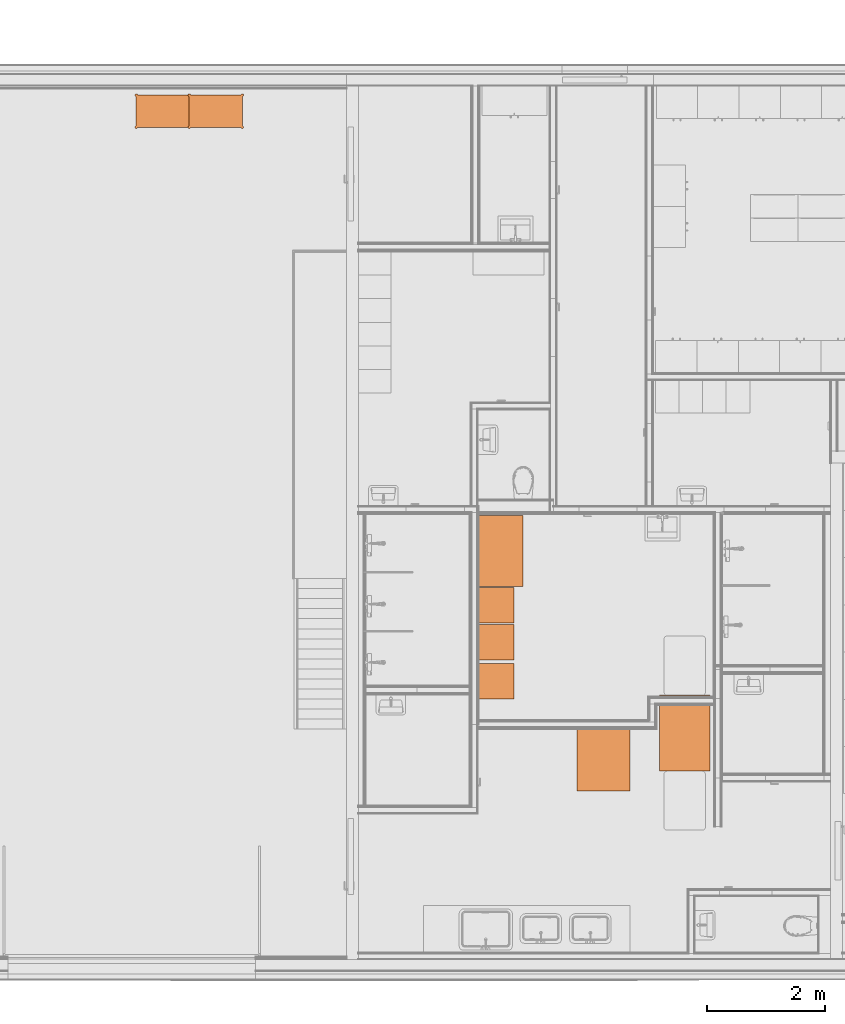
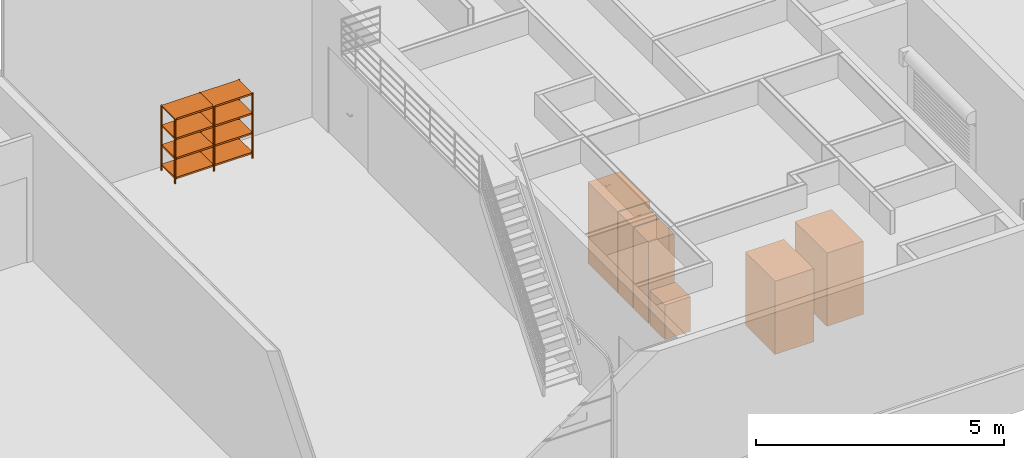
# One storey, part 36 of 67: 8 proxies.
"""IFC4 building model written with IfcOpenShell, lengths in millimetres."""

from ifc_helpers import new_model, entity, si_unit, converted_unit, direction, frame, origin, place, context, subcontext, project, spatial, line, arc, indexed_curve, outline, extrude, source, transform, mapped, material, constituent, constituent_set, type_object, type_shapes, element, save


model = new_model("IFC4")

# Units and contexts
model_context = context("Model", 3, precision=0.01, world=origin(), true_north=direction((0.0, 1.0)))
body_context = subcontext(model_context, "Body", "Model", "MODEL_VIEW")
ifc_project = project(units=[si_unit("LENGTHUNIT", "METRE", prefix="MILLI"), si_unit("AREAUNIT", "SQUARE_METRE"), si_unit("VOLUMEUNIT", "CUBIC_METRE"), converted_unit("PLANEANGLEUNIT", "DEGREE", entity("IfcPlaneAngleMeasure", 0.017453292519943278), si_unit("PLANEANGLEUNIT", "RADIAN"), dimensions=[0, 0, 0, 0, 0, 0, 0])], contexts=[model_context])

# Site, building, storey, space
site_placement = place(None, origin())
site = spatial("IfcSite", under=ifc_project, at=site_placement, Name="Tomtens navn", CompositionType="ELEMENT")
building_placement = place(site_placement, origin())
building = spatial("IfcBuilding", under=site, at=building_placement, Name="Byggets navn", CompositionType="ELEMENT")
storey_placement = place(building_placement, origin())
storey = spatial("IfcBuildingStorey", under=building, at=storey_placement, Name="Level 01", CompositionType="ELEMENT", Elevation=2.1993652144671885e-25)
space_1_placement = place(storey_placement, origin())
space_1 = spatial("IfcSpace", under=storey, at=space_1_placement, Name="111", CompositionType="ELEMENT", PredefinedType="NOTDEFINED")

# Proxy
ifc_material_1 = material(Name="<Unnamed>")
building_element_proxy_type_1 = type_object("IfcBuildingElementProxyType", Name="Washer:1290x850x1800 mm utstyr", PredefinedType="NOTDEFINED", material=ifc_material_1)
shared_shape_1 = source(origin(), body_context, "Body", "SweptSolid", [
    extrude(outline(indexed_curve([(-645.0000000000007, -424.9999999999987), (645.0000000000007, -424.9999999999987), (645.0000000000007, 424.9999999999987), (-645.0000000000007, 424.9999999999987), (-645.0000000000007, -424.9999999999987)], self_intersect=False)), frame((425.0, 645.0, 0.0), z_axis=(0.0, 0.0, 1.0), x_axis=(0.0, 1.0, 0.0)), (0.0, 0.0, 1.0), 1799.999999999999),
])
type_shapes(building_element_proxy_type_1, [shared_shape_1])
proxy_1_placement = place(space_1_placement, frame((63728.01088955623, 11247.466456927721, 0.0)))
element("IfcBuildingElementProxy", 1, at=proxy_1_placement, inside=space_1, type_object=building_element_proxy_type_1, material=ifc_material_1, Name="Washer:1290x850x1800 mm utstyr", PredefinedType="NOTDEFINED", context=body_context, shape_type="MappedRepresentation", body=[
    mapped(shared_shape_1, transform((0.0, 0.0, 0.0), scale=1.0)),
])

# Space
space_2_placement = place(storey_placement, origin())
space_2 = spatial("IfcSpace", under=storey, at=space_2_placement, Name="113", CompositionType="ELEMENT", PredefinedType="NOTDEFINED")

# Proxies
building_element_proxy_type_2 = type_object("IfcBuildingElementProxyType", Name="Washer:600x600x850 mm", PredefinedType="NOTDEFINED", material=ifc_material_1)
shared_shape_2 = source(origin(), body_context, "Body", "SweptSolid", [
    extrude(outline(indexed_curve([(-300.0000000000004, -299.999999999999), (300.00000000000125, -299.999999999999), (300.0000000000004, 299.99999999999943), (-300.00000000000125, 299.9999999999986), (-300.0000000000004, -299.999999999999)], self_intersect=False)), frame((300.0, 300.0, 0.0), z_axis=(0.0, 0.0, 1.0), x_axis=(0.0, 1.0, 0.0)), (0.0, 0.0, 1.0), 849.9999999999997),
])
type_shapes(building_element_proxy_type_2, [shared_shape_2])
proxy_2_placement = place(space_2_placement, frame((60662.85352810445, 13072.716456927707, 0.0), z_axis=(0.0, 0.0, 1.0), x_axis=(0.0, -1.0, 0.0)))
element("IfcBuildingElementProxy", 2, at=proxy_2_placement, inside=space_2, type_object=building_element_proxy_type_2, material=ifc_material_1, Name="Washer:600x600x850 mm", PredefinedType="NOTDEFINED", context=body_context, shape_type="MappedRepresentation", body=[
    mapped(shared_shape_2, transform((0.0, 0.0, 0.0), scale=1.0)),
])
building_element_proxy_type_3 = type_object("IfcBuildingElementProxyType", Name="Washer:1200x900x1800 mm klær", PredefinedType="NOTDEFINED", material=ifc_material_1)
shared_shape_3 = source(origin(), body_context, "Body", "SweptSolid", [
    extrude(outline(indexed_curve([(-600.0000000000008, -449.99999999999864), (600.0000000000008, -449.99999999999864), (600.0000000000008, 449.99999999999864), (-600.0000000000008, 449.99999999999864), (-600.0000000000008, -449.99999999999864)], self_intersect=False)), frame((450.0, 600.0, 0.0), z_axis=(0.0, 0.0, 1.0), x_axis=(0.0, 1.0, 0.0)), (0.0, 0.0, 1.0), 1799.999999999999),
])
type_shapes(building_element_proxy_type_3, [shared_shape_3])
proxy_3_placement = place(space_1_placement, frame((62328.01088955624, 10911.716456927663, 0.0)))
element("IfcBuildingElementProxy", 3, at=proxy_3_placement, inside=space_1, type_object=building_element_proxy_type_3, material=ifc_material_1, Name="Washer:1200x900x1800 mm klær", PredefinedType="NOTDEFINED", context=body_context, shape_type="MappedRepresentation", body=[
    mapped(shared_shape_3, transform((0.0, 0.0, 0.0), scale=1.0)),
])
ifc_constituent_1 = constituent(ifc_material_1, Name="<Unnamed>", fraction=0.0)
ifc_material_2 = material(Name="Black", Category="Unassigned")
ifc_constituent_2 = constituent(ifc_material_2, Name="Black", Category="Unassigned", fraction=1.0)
ifc_constituent_set_1 = constituent_set(constituents=[ifc_constituent_1, ifc_constituent_2])
ifc_constituent_3 = constituent(ifc_material_1, Name="<Unnamed>", fraction=0.0)
ifc_constituent_4 = constituent(ifc_material_2, Name="2D Symbol", Category="Unassigned", fraction=1.0)
ifc_constituent_set_2 = constituent_set(constituents=[ifc_constituent_3, ifc_constituent_4])
building_element_proxy_type_4 = type_object("IfcBuildingElementProxyType", Name="Dryer:750x1200x1850 mm", PredefinedType="NOTDEFINED", material=ifc_constituent_set_2)
shared_shape_4 = source(origin(), body_context, "Body", "SweptSolid", [
    extrude(outline(indexed_curve([(-375.0000000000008, -599.9999999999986), (375.0000000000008, -599.9999999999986), (375.0000000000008, 599.9999999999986), (-375.0000000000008, 599.9999999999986), (-375.0000000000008, -599.9999999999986)], self_intersect=False)), frame((600.0, 375.0, 0.0), z_axis=(0.0, 0.0, 1.0), x_axis=(0.0, 1.0, 0.0)), (0.0, 0.0, 1.0), 1999.999999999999),
    extrude(outline(indexed_curve([(-67.61242848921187, 9.716756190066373), (-67.61242848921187, -9.716756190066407), (16.59945849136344, -9.716756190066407), (16.59945849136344, -38.86702476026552), (34.41351150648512, -38.86702476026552), (34.41351150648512, 38.86702476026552), (16.59945849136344, 38.86702476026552), (16.59945849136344, 9.716756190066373), (-67.61242848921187, 9.716756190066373)], self_intersect=False)), frame((300.309866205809, 290.6394506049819, 2000.0), z_axis=(0.0, 0.0, -1.0), x_axis=(0.0, -1.0, 0.0)), (0.0, 0.0, -1.0), 2.0000000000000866),
])
type_shapes(building_element_proxy_type_4, [shared_shape_4])
proxy_4_placement = place(space_2_placement, frame((60662.85352810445, 15577.216456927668, 0.0), z_axis=(0.0, 0.0, 1.0), x_axis=(0.0, -1.0, 0.0)))
element("IfcBuildingElementProxy", 4, at=proxy_4_placement, inside=space_2, type_object=building_element_proxy_type_4, material=ifc_constituent_set_1, Name="Dryer:750x1200x1850 mm", PredefinedType="NOTDEFINED", context=body_context, shape_type="MappedRepresentation", body=[
    mapped(shared_shape_4, transform((0.0, 0.0, 0.0), scale=1.0)),
])
ifc_constituent_5 = constituent(ifc_material_1, Name="<Unnamed>", fraction=0.0)
ifc_constituent_6 = constituent(ifc_material_2, Name="Black", Category="Unassigned", fraction=1.0)
ifc_constituent_set_3 = constituent_set(constituents=[ifc_constituent_5, ifc_constituent_6])
ifc_constituent_7 = constituent(ifc_material_1, Name="<Unnamed>", fraction=0.0)
ifc_constituent_8 = constituent(ifc_material_2, Name="2D Symbol", Category="Unassigned", fraction=1.0)
ifc_constituent_set_4 = constituent_set(constituents=[ifc_constituent_7, ifc_constituent_8])
building_element_proxy_type_5 = type_object("IfcBuildingElementProxyType", Name="Dryer:Tørkeskap 600x6000x1850 mm", PredefinedType="NOTDEFINED", material=ifc_constituent_set_4)
shared_shape_5 = source(origin(), body_context, "Body", "SweptSolid", [
    extrude(outline(indexed_curve([(-300.0000000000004, -299.999999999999), (300.00000000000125, -299.999999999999), (300.0000000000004, 299.99999999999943), (-300.00000000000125, 299.9999999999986), (-300.0000000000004, -299.999999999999)], self_intersect=False)), frame((300.0, 300.0, 0.0), z_axis=(0.0, 0.0, 1.0), x_axis=(0.0, 1.0, 0.0)), (0.0, 0.0, 1.0), 1999.999999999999),
    extrude(outline(indexed_curve([(-67.61242848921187, 9.716756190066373), (-67.61242848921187, -9.716756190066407), (16.59945849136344, -9.716756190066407), (16.59945849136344, -38.86702476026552), (34.41351150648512, -38.86702476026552), (34.41351150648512, 38.86702476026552), (16.59945849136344, 38.86702476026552), (16.59945849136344, 9.716756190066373), (-67.61242848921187, 9.716756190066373)], self_intersect=False)), frame((300.309866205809, 290.6394506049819, 2000.0), z_axis=(0.0, 0.0, -1.0), x_axis=(0.0, -1.0, 0.0)), (0.0, 0.0, -1.0), 2.0000000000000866),
])
type_shapes(building_element_proxy_type_5, [shared_shape_5])
proxy_5_placement = place(space_2_placement, frame((60662.85352810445, 14357.21645692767, 0.0), z_axis=(0.0, 0.0, 1.0), x_axis=(0.0, -1.0, 0.0)))
element("IfcBuildingElementProxy", 5, at=proxy_5_placement, inside=space_2, type_object=building_element_proxy_type_5, material=ifc_constituent_set_3, Name="Dryer:Tørkeskap 600x6000x1850 mm", PredefinedType="NOTDEFINED", context=body_context, shape_type="MappedRepresentation", body=[
    mapped(shared_shape_5, transform((0.0, 0.0, 0.0), scale=1.0)),
])
ifc_constituent_9 = constituent(ifc_material_1, Name="<Unnamed>", fraction=0.0)
ifc_constituent_10 = constituent(ifc_material_2, Name="Black", Category="Unassigned", fraction=1.0)
ifc_constituent_set_5 = constituent_set(constituents=[ifc_constituent_9, ifc_constituent_10])
proxy_6_placement = place(space_2_placement, frame((60662.85352810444, 13732.466456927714, 0.0), z_axis=(0.0, 0.0, 1.0), x_axis=(0.0, -1.0, 0.0)))
element("IfcBuildingElementProxy", 6, at=proxy_6_placement, inside=space_2, type_object=building_element_proxy_type_5, material=ifc_constituent_set_5, Name="Dryer:Tørkeskap 600x6000x1850 mm", PredefinedType="NOTDEFINED", context=body_context, shape_type="MappedRepresentation", body=[
    mapped(shared_shape_5, transform((0.0, 0.0, 0.0), scale=1.0)),
])

# Space
space_3_placement = place(storey_placement, frame((51258.85352810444, 8107.46645692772, 0.0)))
space_3 = spatial("IfcSpace", under=storey, at=space_3_placement, Name="119", CompositionType="ELEMENT", PredefinedType="NOTDEFINED")

# Proxies
ifc_constituent_11 = constituent(ifc_material_1, Name="<Unnamed>", fraction=0.0)
ifc_material_3 = material(Name="Shelf Top", Category="Miscellaneous")
ifc_constituent_12 = constituent(ifc_material_3, Name="Shelf Top", Category="Miscellaneous", fraction=1.0)
ifc_constituent_set_6 = constituent_set(constituents=[ifc_constituent_11, ifc_constituent_12])
ifc_constituent_13 = constituent(ifc_material_1, Name="<Unnamed>", fraction=0.0)
ifc_constituent_14 = constituent(ifc_material_3, Name="Shelf Top", Category="Miscellaneous", fraction=1.0)
ifc_constituent_set_7 = constituent_set(constituents=[ifc_constituent_13, ifc_constituent_14])
building_element_proxy_type_6 = type_object("IfcBuildingElementProxyType", Name="Pantry_Shelving:W900 D545", PredefinedType="NOTDEFINED", material=ifc_constituent_set_7)
shared_shape_6 = source(origin(), body_context, "Body", "SweptSolid", [
    extrude(outline(indexed_curve([(-19.05, 3.383959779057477e-14), (-1.353583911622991e-13, -19.050000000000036), (19.05, -3.383959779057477e-14), (6.767919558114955e-14, 19.049999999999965)], segments=[arc(1, 2, 3), arc(3, 4, 1)], self_intersect=False)), frame((-450.0, 272.49999999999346, 0.0)), (0.0, 0.0, 1.0), 1599.9999999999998),
    extrude(outline(indexed_curve([(-19.05, 3.150664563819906e-14), (-1.3302543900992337e-13, -19.050000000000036), (19.05, -3.150664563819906e-14), (-2.3329521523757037e-15, 19.049999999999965)], segments=[arc(1, 2, 3), arc(3, 4, 1)], self_intersect=False)), frame((450.0, 272.5000000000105, 0.0), z_axis=(0.0, 0.0, 1.0), x_axis=(-1.0, 0.0, 0.0)), (0.0, 0.0, 1.0), 1599.9999999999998),
    extrude(outline(indexed_curve([(-19.05, 3.383959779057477e-14), (-1.353583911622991e-13, -19.050000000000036), (19.05, -3.383959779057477e-14), (6.767919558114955e-14, 19.049999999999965)], segments=[arc(1, 2, 3), arc(3, 4, 1)], self_intersect=False)), frame((-450.0, -272.5000000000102, 0.0)), (0.0, 0.0, 1.0), 1599.9999999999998),
    extrude(outline(indexed_curve([(-19.05, 7.380614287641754e-14), (-1.4148533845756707e-13, -19.05), (19.05, -1.076457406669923e-13), (1.4148533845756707e-13, 19.05)], segments=[arc(1, 2, 3), arc(3, 4, 1)], self_intersect=False)), frame((450.0, -272.50000000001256, 0.0), z_axis=(0.0, 0.0, 1.0), x_axis=(-1.0, 0.0, 0.0)), (0.0, 0.0, 1.0), 1599.9999999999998),
    extrude(outline(indexed_curve([(-250.33176893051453, -451.5874999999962), (250.33176893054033, -451.5874999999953), (257.35621517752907, -466.2670343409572), (272.5000000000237, -472.22499999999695), (294.710803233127, -450.7942573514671), (274.08750000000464, -427.8317689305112), (274.08749999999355, 427.83176893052), (294.71080323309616, 450.7942573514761), (272.4999999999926, 472.2250000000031), (257.3562151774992, 466.2670343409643), (250.3317689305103, 451.5875000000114), (-250.33176893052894, 451.58749999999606), (-257.35621517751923, 466.2670343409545), (-272.5000000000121, 472.22499999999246), (-294.71080323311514, 450.7942573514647), (-274.0875000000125, 427.8317689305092), (-274.0874999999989, -427.8317689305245), (-294.71080323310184, -450.7942573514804), (-272.4999999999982, -472.2250000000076), (-257.35621517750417, -466.2670343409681)], segments=[line(1, 2), arc(2, 3, 4), arc(4, 5, 6), line(6, 7), arc(7, 8, 9), arc(9, 10, 11), line(11, 12), arc(12, 13, 14), arc(14, 15, 16), line(16, 17), arc(17, 18, 19), arc(19, 20, 1)], self_intersect=False), holes=[indexed_curve([(-272.4999999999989, -430.9500000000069), (-253.44999999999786, -450.0000000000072), (-272.49999999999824, -469.0500000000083), (-291.5499999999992, -450.000000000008)], segments=[arc(1, 2, 3), arc(3, 4, 1)], self_intersect=False), indexed_curve([(-270.9125000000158, 427.83176893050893), (-256.7845517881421, 434.28455178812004), (-250.33176893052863, 448.41249999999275), (250.33176893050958, 448.4125000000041), (256.7845517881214, 434.2845517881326), (270.91249999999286, 427.83176893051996), (270.91250000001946, -427.831768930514), (256.7845517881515, -434.284551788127), (250.33176893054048, -448.41249999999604), (-250.33176893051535, -448.41250000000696), (-256.7845517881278, -434.2845517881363), (-270.91249999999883, -427.8317689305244)], segments=[arc(1, 2, 3), line(3, 4), arc(4, 5, 6), line(6, 7), arc(7, 8, 9), line(9, 10), arc(10, 11, 12), line(12, 1)], self_intersect=False), indexed_curve([(-272.5000000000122, 469.04999999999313), (-253.4500000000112, 449.99999999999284), (-272.50000000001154, 430.94999999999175), (-291.5500000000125, 449.99999999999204)], segments=[arc(1, 2, 3), arc(3, 4, 1)], self_intersect=False), indexed_curve([(272.50000000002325, -430.94999999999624), (291.5500000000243, -449.99999999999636), (272.5000000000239, -469.04999999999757), (253.45000000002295, -449.99999999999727)], segments=[arc(1, 2, 3), arc(3, 4, 1)], self_intersect=False), indexed_curve([(272.4999999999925, 469.0500000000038), (291.54999999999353, 450.0000000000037), (272.49999999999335, 430.9500000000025), (253.4499999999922, 450.0000000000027)], segments=[arc(1, 2, 3), arc(3, 4, 1)], self_intersect=False)]), frame((0.0, 0.0, 108.7249999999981), z_axis=(0.0, 0.0, 1.0), x_axis=(0.0, -1.0, 0.0)), (0.0, 0.0, 1.0), 41.27499999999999),
    extrude(outline(indexed_curve([(-250.3317689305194, -451.5874999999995), (250.3317689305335, -451.58749999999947), (257.3562151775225, -466.2670343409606), (272.5000000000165, -472.2250000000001), (294.7108032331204, -450.79425735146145), (274.0874999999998, -427.8317689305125), (274.08749999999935, 427.8317689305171), (294.7108032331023, 450.7942573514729), (272.49999999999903, 472.22500000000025), (257.35621517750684, 466.2670343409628), (250.33176893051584, 451.5875000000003), (-250.33176893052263, 451.5874999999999), (-257.35621517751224, 466.2670343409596), (-272.5000000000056, 472.2249999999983), (-294.71080323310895, 450.79425735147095), (-274.0875000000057, 427.83176893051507), (-274.08750000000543, -427.8317689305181), (-294.7108032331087, -450.7942573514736), (-272.50000000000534, -472.2250000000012), (-257.3562151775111, -466.2670343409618)], segments=[line(1, 2), arc(2, 3, 4), arc(4, 5, 6), line(6, 7), arc(7, 8, 9), arc(9, 10, 11), line(11, 12), arc(12, 13, 14), arc(14, 15, 16), line(16, 17), arc(17, 18, 19), arc(19, 20, 1)], self_intersect=False), holes=[indexed_curve([(-272.5000000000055, -430.95000000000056), (-253.45000000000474, -450.00000000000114), (-272.5000000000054, -469.05000000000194), (-291.5500000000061, -450.0000000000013)], segments=[arc(1, 2, 3), arc(3, 4, 1)], self_intersect=False), indexed_curve([(-270.91250000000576, 427.83176893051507), (-256.7845517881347, 434.28455178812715), (-250.33176893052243, 448.4124999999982), (250.33176893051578, 448.41250000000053), (256.7845517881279, 434.2845517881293), (270.9124999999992, 427.83176893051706), (270.91249999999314, -427.83176893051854), (256.78455178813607, -434.2845517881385), (250.33176893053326, -448.41250000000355), (-250.33176893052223, -448.4125000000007), (-256.78455178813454, -434.28455178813), (-270.9125000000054, -427.8317689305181)], segments=[arc(1, 2, 3), line(3, 4), arc(4, 5, 6), line(6, 7), arc(7, 8, 9), line(9, 10), arc(10, 11, 12), line(12, 1)], self_intersect=False), indexed_curve([(-272.50000000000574, 469.04999999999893), (-253.450000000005, 449.9999999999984), (-272.5000000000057, 430.9499999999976), (-291.5500000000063, 449.9999999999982)], segments=[arc(1, 2, 3), arc(3, 4, 1)], self_intersect=False), indexed_curve([(272.5000000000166, -430.94999999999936), (291.55000000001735, -449.99999999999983), (272.5000000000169, -469.0500000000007), (253.45000000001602, -450.0000000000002)], segments=[arc(1, 2, 3), arc(3, 4, 1)], self_intersect=False), indexed_curve([(272.4999999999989, 469.050000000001), (291.54999999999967, 450.00000000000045), (272.499999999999, 430.94999999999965), (253.4499999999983, 450.0000000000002)], segments=[arc(1, 2, 3), arc(3, 4, 1)], self_intersect=False)]), frame((0.0, 0.0, 592.0583333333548), z_axis=(0.0, 0.0, 1.0), x_axis=(0.0, -1.0, 0.0)), (0.0, 0.0, 1.0), 41.27500000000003),
    extrude(outline(indexed_curve([(-250.33176893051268, -451.58749999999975), (250.3317689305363, -451.58749999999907), (257.35621517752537, -466.2670343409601), (272.5000000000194, -472.22499999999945), (294.7108032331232, -450.79425735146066), (274.08750000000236, -427.83176893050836), (274.08749999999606, 427.83176893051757), (294.7108032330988, 450.79425735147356), (272.49999999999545, 472.2250000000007), (257.3562151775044, 466.2670343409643), (250.33176893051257, 451.58750000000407), (-250.33176893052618, 451.58749999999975), (-257.35621517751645, 466.2670343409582), (-272.5000000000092, 472.2249999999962), (-294.7108032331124, 450.7942573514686), (-274.087500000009, 427.83176893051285), (-274.0875000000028, -427.8317689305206), (-294.71080323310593, -450.79425735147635), (-272.5000000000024, -472.2250000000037), (-257.35621517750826, -466.2670343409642)], segments=[line(1, 2), arc(2, 3, 4), arc(4, 5, 6), line(6, 7), arc(7, 8, 9), arc(9, 10, 11), line(11, 12), arc(12, 13, 14), arc(14, 15, 16), line(16, 17), arc(17, 18, 19), arc(19, 20, 1)], self_intersect=False), holes=[indexed_curve([(-272.50000000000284, -430.95000000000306), (-253.45000000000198, -450.00000000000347), (-272.5000000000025, -469.05000000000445), (-291.5500000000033, -450.000000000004)], segments=[arc(1, 2, 3), arc(3, 4, 1)], self_intersect=False), indexed_curve([(-270.91250000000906, 427.8317689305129), (-256.784551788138, 434.28455178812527), (-250.3317689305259, 448.4124999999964), (250.33176893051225, 448.412500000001), (256.7845517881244, 434.28455178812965), (270.9124999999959, 427.8317689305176), (270.9124999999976, -427.8317689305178), (256.7845517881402, -434.28455178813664), (250.33176893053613, -448.4125000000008), (-250.33176893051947, -448.4125000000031), (-256.78455178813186, -434.2845517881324), (-270.9125000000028, -427.8317689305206)], segments=[arc(1, 2, 3), line(3, 4), arc(4, 5, 6), line(6, 7), arc(7, 8, 9), line(9, 10), arc(10, 11, 12), line(12, 1)], self_intersect=False), indexed_curve([(-272.5000000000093, 469.0499999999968), (-253.45000000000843, 449.9999999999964), (-272.500000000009, 430.9499999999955), (-291.5500000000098, 449.99999999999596)], segments=[arc(1, 2, 3), arc(3, 4, 1)], self_intersect=False), indexed_curve([(272.5000000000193, -430.94999999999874), (291.5500000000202, -449.9999999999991), (272.5000000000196, -469.0500000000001), (253.45000000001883, -449.9999999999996)], segments=[arc(1, 2, 3), arc(3, 4, 1)], self_intersect=False), indexed_curve([(272.4999999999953, 469.05000000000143), (291.54999999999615, 450.00000000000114), (272.4999999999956, 430.9500000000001), (253.4499999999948, 450.00000000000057)], segments=[arc(1, 2, 3), arc(3, 4, 1)], self_intersect=False)]), frame((0.0, 0.0, 1075.3916666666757), z_axis=(0.0, 0.0, 1.0), x_axis=(0.0, -1.0, 0.0)), (0.0, 0.0, 1.0), 41.274999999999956),
    extrude(outline(indexed_curve([(-250.3317689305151, -451.5874999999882), (250.3317689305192, -451.58749999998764), (257.3562151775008, -466.2670343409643), (272.50000000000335, -472.2250000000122), (294.71080323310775, -450.7942573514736), (274.08749999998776, -427.83176893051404), (274.08750000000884, 427.83176893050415), (294.7108032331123, 450.7942573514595), (272.5000000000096, 472.22499999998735), (257.35621517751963, 466.26703434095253), (250.33176893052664, 451.58749999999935), (-250.33176893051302, 451.587500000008), (-257.3562151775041, 466.26703434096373), (-272.49999999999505, 472.22500000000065), (-294.7108032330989, 450.7942573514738), (-274.0874999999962, 427.83176893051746), (-274.0875000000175, -427.831768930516), (-294.71080323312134, -450.79425735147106), (-272.50000000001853, -472.2249999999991), (-257.3562151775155, -466.2670343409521)], segments=[line(1, 2), arc(2, 3, 4), arc(4, 5, 6), line(6, 7), arc(7, 8, 9), arc(9, 10, 11), line(11, 12), arc(12, 13, 14), arc(14, 15, 16), line(16, 17), arc(17, 18, 19), arc(19, 20, 1)], self_intersect=False), holes=[indexed_curve([(-272.5000000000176, -430.94999999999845), (-253.45000000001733, -449.9999999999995), (-272.5000000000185, -469.04999999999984), (-291.5500000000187, -449.9999999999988)], segments=[arc(1, 2, 3), arc(3, 4, 1)], self_intersect=False), indexed_curve([(-270.9124999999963, 427.8317689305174), (-256.784551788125, 434.2845517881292), (-250.33176893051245, 448.4125000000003), (250.3317689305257, 448.4124999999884), (256.7845517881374, 434.28455178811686), (270.9125000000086, 427.83176893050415), (270.912499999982, -427.83176893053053), (256.7845517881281, -434.2845517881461), (250.33176893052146, -448.4125000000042), (-250.3317689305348, -448.41249999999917), (-256.78455178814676, -434.28455178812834), (-270.9125000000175, -427.83176893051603)], segments=[arc(1, 2, 3), line(3, 4), arc(4, 5, 6), line(6, 7), arc(7, 8, 9), line(9, 10), arc(10, 11, 12), line(12, 1)], self_intersect=False), indexed_curve([(-272.4999999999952, 469.0500000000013), (-253.44999999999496, 450.0000000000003), (-272.49999999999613, 430.95), (-291.5499999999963, 450.00000000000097)], segments=[arc(1, 2, 3), arc(3, 4, 1)], self_intersect=False), indexed_curve([(272.5000000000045, -430.95000000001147), (291.5500000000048, -450.00000000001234), (272.5000000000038, -469.0500000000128), (253.45000000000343, -450.0000000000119)], segments=[arc(1, 2, 3), arc(3, 4, 1)], self_intersect=False), indexed_curve([(272.50000000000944, 469.0499999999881), (291.5500000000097, 449.9999999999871), (272.50000000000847, 430.9499999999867), (253.4500000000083, 449.99999999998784)], segments=[arc(1, 2, 3), arc(3, 4, 1)], self_intersect=False)]), frame((0.0, 0.0, 1558.7249999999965), z_axis=(0.0, 0.0, 1.0), x_axis=(0.0, -1.0, 0.0)), (0.0, 0.0, 1.0), 41.27500000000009),
    extrude(outline(indexed_curve([(427.8317689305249, 270.91250000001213), (-427.83176893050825, 270.91250000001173), (-434.2845517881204, 256.78455178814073), (-448.4124999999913, 250.33176893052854), (-448.41250000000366, -250.33176893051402), (-434.2845517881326, -256.78455178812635), (-427.83176893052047, -270.9124999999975), (427.8317689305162, -270.91250000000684), (434.28455178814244, -256.7845517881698), (448.4124999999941, -250.3317689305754), (448.41250000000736, 250.331768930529), (434.2845517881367, 256.7845517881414)], segments=[line(1, 2), arc(2, 3, 4), line(4, 5), arc(5, 6, 7), line(7, 8), arc(8, 9, 10), line(10, 11), arc(11, 12, 1)], self_intersect=False)), frame((0.0, 0.0, 137.29999999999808), z_axis=(0.0, 0.0, -1.0), x_axis=(-1.0, 0.0, 0.0)), (0.0, 0.0, -1.0), 12.700000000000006),
    extrude(outline(indexed_curve([(427.8317689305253, 270.9125000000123), (-427.83176893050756, 270.9125000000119), (-434.2845517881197, 256.7845517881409), (-448.41249999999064, 250.3317689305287), (-448.412500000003, -250.33176893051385), (-434.2845517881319, -256.7845517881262), (-427.83176893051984, -270.91249999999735), (427.83176893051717, -270.9125000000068), (434.28455178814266, -256.7845517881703), (448.4124999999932, -250.33176893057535), (448.41250000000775, 250.33176893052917), (434.2845517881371, 256.7845517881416)], segments=[line(1, 2), arc(2, 3, 4), line(4, 5), arc(5, 6, 7), line(7, 8), arc(8, 9, 10), line(10, 11), arc(11, 12, 1)], self_intersect=False)), frame((0.0, 0.0, 620.6333333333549), z_axis=(0.0, 0.0, -1.0), x_axis=(-1.0, 0.0, 0.0)), (0.0, 0.0, -1.0), 12.699999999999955),
    extrude(outline(indexed_curve([(427.83176893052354, 270.9125000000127), (-427.83176893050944, 270.9125000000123), (-434.28455178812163, 256.78455178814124), (-448.4124999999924, 250.33176893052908), (-448.41249999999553, -250.33176893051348), (-434.28455178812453, -256.7845517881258), (-427.8317689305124, -270.9124999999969), (427.83176893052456, -270.91250000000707), (434.2845517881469, -256.7845517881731), (448.4124999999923, -250.33176893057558), (448.412500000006, 250.3317689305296), (434.28455178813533, 256.784551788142)], segments=[line(1, 2), arc(2, 3, 4), line(4, 5), arc(5, 6, 7), line(7, 8), arc(8, 9, 10), line(10, 11), arc(11, 12, 1)], self_intersect=False)), frame((0.0, 0.0, 1103.9666666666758), z_axis=(0.0, 0.0, -1.0), x_axis=(-1.0, 0.0, 0.0)), (0.0, 0.0, -1.0), 12.699999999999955),
    extrude(outline(indexed_curve([(427.8317689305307, 270.9125000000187), (-427.83176893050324, 270.9125000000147), (-434.2845517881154, 256.7845517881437), (-448.4124999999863, 250.33176893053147), (-448.41249999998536, -250.33176893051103), (-434.2845517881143, -256.78455178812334), (-427.8317689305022, -270.9124999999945), (427.8317689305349, -270.9125000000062), (434.2845517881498, -256.7845517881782), (448.4124999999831, -250.33176893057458), (448.4124999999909, 250.33176893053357), (434.2845517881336, 256.78455178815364)], segments=[line(1, 2), arc(2, 3, 4), line(4, 5), arc(5, 6, 7), line(7, 8), arc(8, 9, 10), line(10, 11), arc(11, 12, 1)], self_intersect=False)), frame((0.0, 0.0, 1587.2999999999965), z_axis=(0.0, 0.0, -1.0), x_axis=(-1.0, 0.0, 0.0)), (0.0, 0.0, -1.0), 12.70000000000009),
])
type_shapes(building_element_proxy_type_6, [shared_shape_6])
proxy_7_placement = place(space_3_placement, frame((4050.0569160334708, 14325.898993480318, 0.0)))
element("IfcBuildingElementProxy", 7, at=proxy_7_placement, inside=space_3, type_object=building_element_proxy_type_6, material=ifc_constituent_set_6, Name="Pantry_Shelving:W900 D545", PredefinedType="NOTDEFINED", context=body_context, shape_type="MappedRepresentation", body=[
    mapped(shared_shape_6, transform((0.0, 0.0, 0.0), scale=1.0)),
])
ifc_constituent_15 = constituent(ifc_material_1, Name="<Unnamed>", fraction=0.0)
ifc_constituent_16 = constituent(ifc_material_3, Name="Shelf Top", Category="Miscellaneous", fraction=1.0)
ifc_constituent_set_8 = constituent_set(constituents=[ifc_constituent_15, ifc_constituent_16])
proxy_8_placement = place(space_3_placement, frame((4948.056916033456, 14325.898993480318, 0.0)))
element("IfcBuildingElementProxy", 8, at=proxy_8_placement, inside=space_3, type_object=building_element_proxy_type_6, material=ifc_constituent_set_8, Name="Pantry_Shelving:W900 D545", PredefinedType="NOTDEFINED", context=body_context, shape_type="MappedRepresentation", body=[
    mapped(shared_shape_6, transform((0.0, 0.0, 0.0), scale=1.0)),
])

save(model, "model.ifc")
